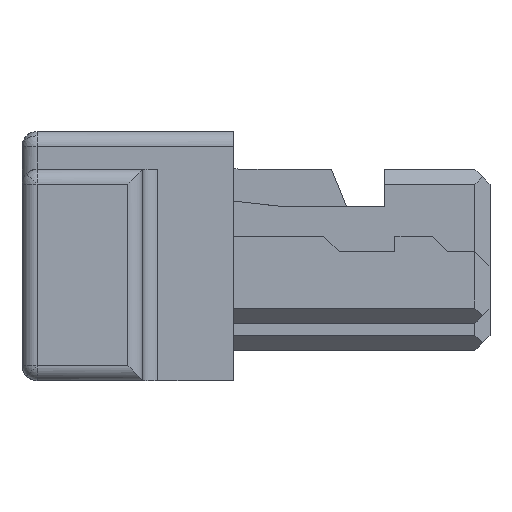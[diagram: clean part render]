
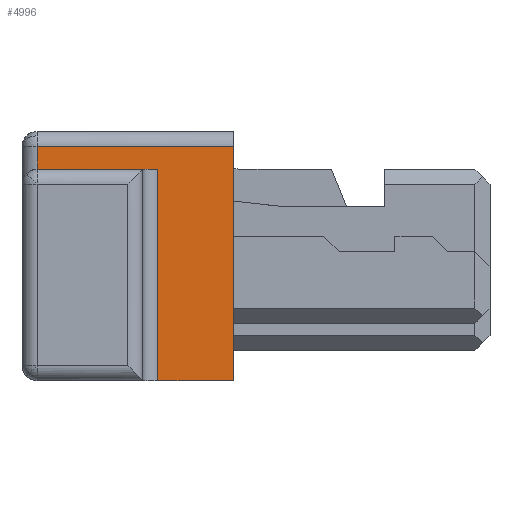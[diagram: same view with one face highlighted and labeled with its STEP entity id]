
A CAD part, front view. The second image highlights one B-rep face of the part: STEP entity #4996.
In plain terms, the highlighted planar face has unit normal (0, -1, 0).
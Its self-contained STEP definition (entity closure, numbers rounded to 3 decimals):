
#144=DIRECTION('',(0.,0.,1.));
#145=VECTOR('',#144,1.4);
#146=CARTESIAN_POINT('',(0.9,-6.8,-0.825));
#147=LINE('',#146,#145);
#148=DIRECTION('',(1.,0.,0.));
#149=VECTOR('',#148,0.5);
#150=CARTESIAN_POINT('',(0.9,-6.8,-0.825));
#151=LINE('',#150,#149);
#152=DIRECTION('',(1.,0.,0.));
#153=VECTOR('',#152,0.8);
#154=CARTESIAN_POINT('',(0.1,-6.8,0.575));
#155=LINE('',#154,#153);
#156=DIRECTION('',(0.,0.,1.));
#157=VECTOR('',#156,0.15);
#158=CARTESIAN_POINT('',(0.1,-6.8,0.575));
#159=LINE('',#158,#157);
#419=DIRECTION('',(0.,0.,-1.));
#420=VECTOR('',#419,1.55);
#421=CARTESIAN_POINT('',(1.4,-6.8,0.725));
#422=LINE('',#421,#420);
#457=DIRECTION('',(1.,0.,0.));
#458=VECTOR('',#457,1.3);
#459=CARTESIAN_POINT('',(0.1,-6.8,0.725));
#460=LINE('',#459,#458);
#3634=CARTESIAN_POINT('',(0.1,-6.8,0.575));
#3635=VERTEX_POINT('',#3634);
#3636=CARTESIAN_POINT('',(0.9,-6.8,0.575));
#3637=VERTEX_POINT('',#3636);
#3687=CARTESIAN_POINT('',(0.9,-6.8,-0.825));
#3688=VERTEX_POINT('',#3687);
#3689=CARTESIAN_POINT('',(0.1,-6.8,0.725));
#3690=CARTESIAN_POINT('',(1.4,-6.8,0.725));
#3691=VERTEX_POINT('',#3689);
#3692=VERTEX_POINT('',#3690);
#3693=CARTESIAN_POINT('',(1.4,-6.8,-0.825));
#3694=VERTEX_POINT('',#3693);
#4980=CARTESIAN_POINT('',(0.75,-6.8,-0.05));
#4981=DIRECTION('',(0.,1.,0.));
#4982=DIRECTION('',(-1.,0.,0.));
#4983=AXIS2_PLACEMENT_3D('',#4980,#4981,#4982);
#4984=PLANE('',#4983);
#4986=ORIENTED_EDGE('',*,*,#4985,.T.);
#4988=ORIENTED_EDGE('',*,*,#4987,.T.);
#4990=ORIENTED_EDGE('',*,*,#4989,.T.);
#4991=ORIENTED_EDGE('',*,*,#4952,.F.);
#4992=ORIENTED_EDGE('',*,*,#4974,.T.);
#4993=ORIENTED_EDGE('',*,*,#4715,.F.);
#4994=EDGE_LOOP('',(#4986,#4988,#4990,#4991,#4992,#4993));
#4995=FACE_OUTER_BOUND('',#4994,.F.);
#4996=ADVANCED_FACE('',(#4995),#4984,.F.);
#4715=EDGE_CURVE('',#3635,#3637,#155,.T.);
#4952=EDGE_CURVE('',#3688,#3694,#151,.T.);
#4974=EDGE_CURVE('',#3688,#3637,#147,.T.);
#4985=EDGE_CURVE('',#3635,#3691,#159,.T.);
#4987=EDGE_CURVE('',#3691,#3692,#460,.T.);
#4989=EDGE_CURVE('',#3692,#3694,#422,.T.);
